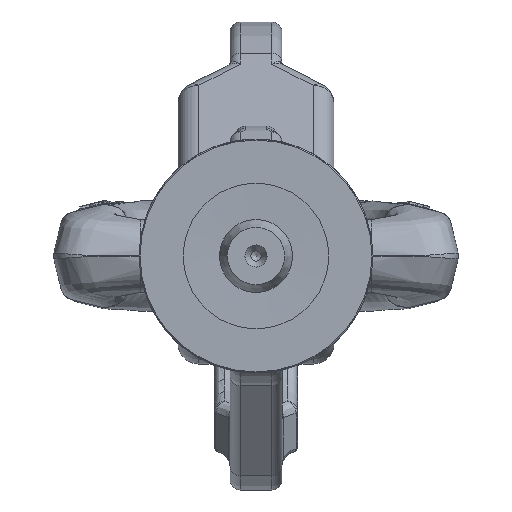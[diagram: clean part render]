
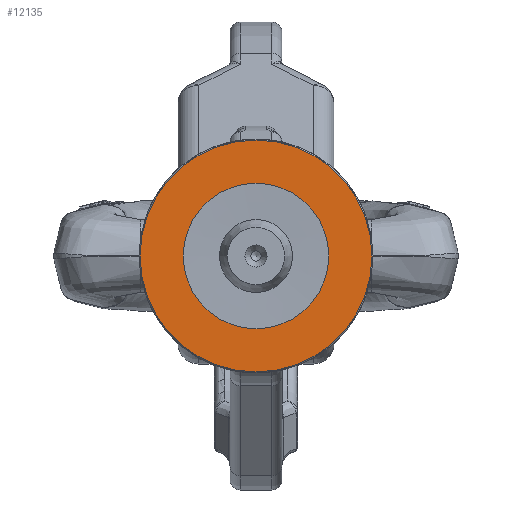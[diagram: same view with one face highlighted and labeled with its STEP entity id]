
A CAD part, front view. The second image highlights one B-rep face of the part: STEP entity #12135.
In plain terms, the highlighted planar face has unit normal (0, -1, 0) as drawn and (0, 0, -1) by its records, which use the part's own axes.
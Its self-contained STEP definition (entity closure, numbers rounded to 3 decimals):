
#1207=FACE_BOUND('',#4291,.T.);
#2761=PLANE('',#13182);
#3485=FACE_OUTER_BOUND('',#4290,.T.);
#4290=EDGE_LOOP('',(#11359));
#4291=EDGE_LOOP('',(#11360));
#4712=CIRCLE('',#13179,22.3);
#4714=CIRCLE('',#13183,14.);
#5966=VERTEX_POINT('',#34086);
#5968=VERTEX_POINT('',#34092);
#7767=EDGE_CURVE('',#5966,#5966,#4712,.T.);
#7769=EDGE_CURVE('',#5968,#5968,#4714,.T.);
#11359=ORIENTED_EDGE('',*,*,#7767,.F.);
#11360=ORIENTED_EDGE('',*,*,#7769,.F.);
#12135=ADVANCED_FACE('',(#3485,#1207),#2761,.F.);
#13179=AXIS2_PLACEMENT_3D('',#34087,#15693,#15694);
#13182=AXIS2_PLACEMENT_3D('',#34091,#15699,#15700);
#13183=AXIS2_PLACEMENT_3D('',#34093,#15701,#15702);
#15693=DIRECTION('center_axis',(0.,0.,1.));
#15694=DIRECTION('ref_axis',(-1.,0.,0.));
#15699=DIRECTION('center_axis',(0.,0.,1.));
#15700=DIRECTION('ref_axis',(1.,0.,0.));
#15701=DIRECTION('center_axis',(0.,0.,-1.));
#15702=DIRECTION('ref_axis',(-1.,0.,0.));
#34086=CARTESIAN_POINT('',(22.3,0.,0.));
#34087=CARTESIAN_POINT('Origin',(0.,0.,0.));
#34091=CARTESIAN_POINT('Origin',(0.,0.,0.));
#34092=CARTESIAN_POINT('',(14.,0.,0.));
#34093=CARTESIAN_POINT('Origin',(0.,0.,0.));
